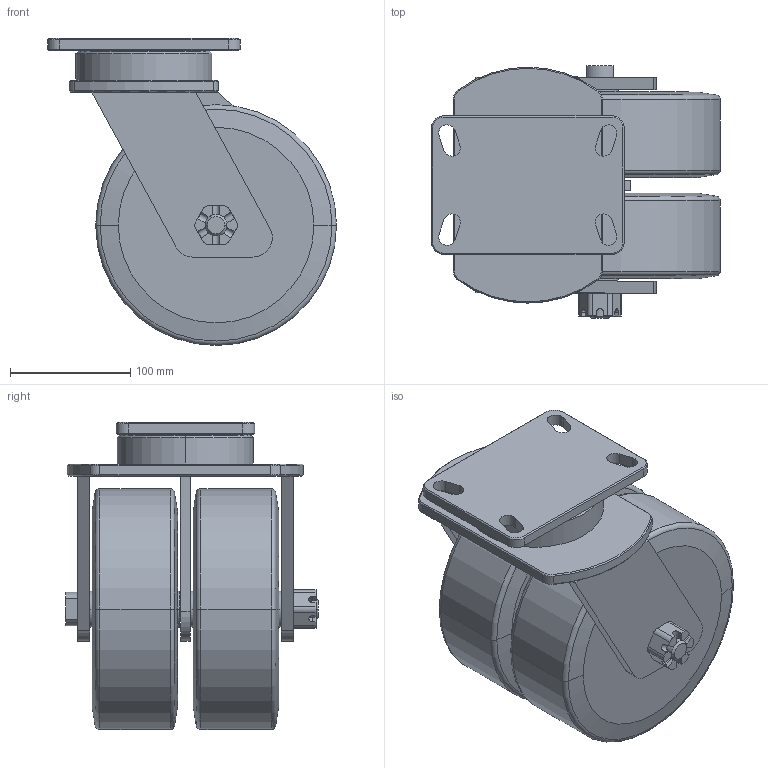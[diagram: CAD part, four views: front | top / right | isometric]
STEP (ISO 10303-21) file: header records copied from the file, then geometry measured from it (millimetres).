
FILE_DESCRIPTION(/* description */ (''),/* implementation_level */ '2;1');
FILE_NAME(/* name */ '40B03_8_F.stp',/* time_stamp */ '2022-08-29T10:47:04+08:00',/* author */ (''),/* organization */ (''),/* preprocessor_version */ 'ST-DEVELOPER v14',/* originating_system */ 'SIEMENS PLM Software NX 8.0',/* authorisation */ '');
FILE_SCHEMA (('AUTOMOTIVE_DESIGN { 1 0 10303 214 3 1 1 1 }'));
Length unit declared in the file: millimetre
Products named in the file (1): 40B03_8_F
Bounding box: 240 x 210 x 255 mm (x, y, z)
Volume: 5329400.1 mm3; surface area: 375928.2 mm2
Topology: 1 solids, 4 shells, 407 faces, 1050 edges, 678 vertices
Faces by surface type: plane 258, cylinder 103, cone 36, torus 10
Entity records: 12886 total; most frequent: CARTESIAN_POINT 3174, ORIENTED_EDGE 2100, DIRECTION 1876, EDGE_CURVE 1050, VERTEX_POINT 678, AXIS2_PLACEMENT_3D 674, LINE 528, VECTOR 528
